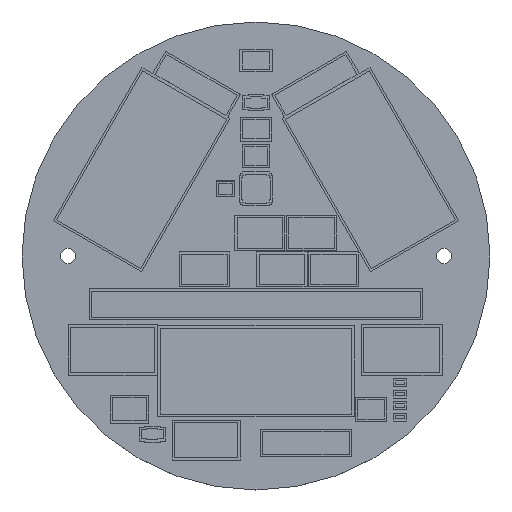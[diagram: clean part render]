
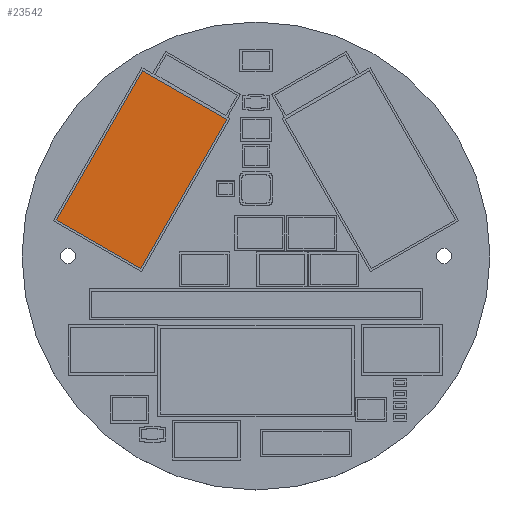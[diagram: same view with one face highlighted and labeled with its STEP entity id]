
A CAD part, top view. The second image highlights one B-rep face of the part: STEP entity #23542.
In plain terms, the highlighted planar face has unit normal (0, 0, 1).
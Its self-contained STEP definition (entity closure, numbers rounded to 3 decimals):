
#14157 = PLANE('',#14158);
#14158 = AXIS2_PLACEMENT_3D('',#14159,#14160,#14161);
#14159 = CARTESIAN_POINT('',(-7.306,36.146,2.6));
#14160 = DIRECTION('',(0.866,-0.5,0.));
#14161 = DIRECTION('',(0.,0.,1.));
#14185 = PLANE('',#14186);
#14186 = AXIS2_PLACEMENT_3D('',#14187,#14188,#14189);
#14187 = CARTESIAN_POINT('',(-29.536,-3.559,2.6));
#14188 = DIRECTION('',(-0.5,-0.866,0.));
#14189 = DIRECTION('',(0.,0.,1.));
#14213 = PLANE('',#14214);
#14214 = AXIS2_PLACEMENT_3D('',#14215,#14216,#14217);
#14215 = CARTESIAN_POINT('',(-52.266,8.872,2.6));
#14216 = DIRECTION('',(-0.866,0.5,0.));
#14217 = DIRECTION('',(0.,0.,1.));
#14239 = PLANE('',#14240);
#14240 = AXIS2_PLACEMENT_3D('',#14241,#14242,#14243);
#14241 = CARTESIAN_POINT('',(-30.036,48.576,2.6));
#14242 = DIRECTION('',(0.5,0.866,0.));
#14243 = DIRECTION('',(0.,0.,1.));
#19907 = VERTEX_POINT('',#19908);
#19908 = CARTESIAN_POINT('',(-7.606,35.626,3.));
#19927 = EDGE_CURVE('',#19928,#19907,#19930,.T.);
#19928 = VERTEX_POINT('',#19929);
#19929 = CARTESIAN_POINT('',(-30.056,-3.259,3.));
#19930 = SURFACE_CURVE('',#19931,(#19935,#19941),.PCURVE_S1.);
#19931 = LINE('',#19932,#19933);
#19932 = CARTESIAN_POINT('',(-14.219,24.173,3.));
#19933 = VECTOR('',#19934,1.);
#19934 = DIRECTION('',(0.5,0.866,-0.));
#19935 = PCURVE('',#14157,#19936);
#19936 = DEFINITIONAL_REPRESENTATION('',(#19937),#19940);
#19937 = B_SPLINE_CURVE_WITH_KNOTS('',1,(#19938,#19939),.UNSPECIFIED.,
  .F.,.F.,(2,2),(-31.675,13.225),
  .PIECEWISE_BEZIER_KNOTS.);
#19938 = CARTESIAN_POINT('',(0.4,45.5));
#19939 = CARTESIAN_POINT('',(0.4,0.6));
#19940 = ( GEOMETRIC_REPRESENTATION_CONTEXT(2) 
PARAMETRIC_REPRESENTATION_CONTEXT() REPRESENTATION_CONTEXT('2D SPACE',''
  ) );
#19941 = PCURVE('',#19942,#19947);
#19942 = PLANE('',#19943);
#19943 = AXIS2_PLACEMENT_3D('',#19944,#19945,#19946);
#19944 = CARTESIAN_POINT('',(0.,0.,3.)
  );
#19945 = DIRECTION('',(0.,0.,1.));
#19946 = DIRECTION('',(1.,0.,-0.));
#19947 = DEFINITIONAL_REPRESENTATION('',(#19948),#19951);
#19948 = B_SPLINE_CURVE_WITH_KNOTS('',1,(#19949,#19950),.UNSPECIFIED.,
  .F.,.F.,(2,2),(-31.675,13.225),
  .PIECEWISE_BEZIER_KNOTS.);
#19949 = CARTESIAN_POINT('',(-30.056,-3.259));
#19950 = CARTESIAN_POINT('',(-7.606,35.626));
#19951 = ( GEOMETRIC_REPRESENTATION_CONTEXT(2) 
PARAMETRIC_REPRESENTATION_CONTEXT() REPRESENTATION_CONTEXT('2D SPACE',''
  ) );
#19977 = EDGE_CURVE('',#19978,#19928,#19980,.T.);
#19978 = VERTEX_POINT('',#19979);
#19979 = CARTESIAN_POINT('',(-51.966,9.391,3.));
#19980 = SURFACE_CURVE('',#19981,(#19985,#19991),.PCURVE_S1.);
#19981 = LINE('',#19982,#19983);
#19982 = CARTESIAN_POINT('',(-19.231,-9.509,3.));
#19983 = VECTOR('',#19984,1.);
#19984 = DIRECTION('',(0.866,-0.5,0.));
#19985 = PCURVE('',#14185,#19986);
#19986 = DEFINITIONAL_REPRESENTATION('',(#19987),#19990);
#19987 = B_SPLINE_CURVE_WITH_KNOTS('',1,(#19988,#19989),.UNSPECIFIED.,
  .F.,.F.,(2,2),(-37.8,-12.5),
  .PIECEWISE_BEZIER_KNOTS.);
#19988 = CARTESIAN_POINT('',(0.4,25.9));
#19989 = CARTESIAN_POINT('',(0.4,0.6));
#19990 = ( GEOMETRIC_REPRESENTATION_CONTEXT(2) 
PARAMETRIC_REPRESENTATION_CONTEXT() REPRESENTATION_CONTEXT('2D SPACE',''
  ) );
#19991 = PCURVE('',#19942,#19992);
#19992 = DEFINITIONAL_REPRESENTATION('',(#19993),#19996);
#19993 = B_SPLINE_CURVE_WITH_KNOTS('',1,(#19994,#19995),.UNSPECIFIED.,
  .F.,.F.,(2,2),(-37.8,-12.5),
  .PIECEWISE_BEZIER_KNOTS.);
#19994 = CARTESIAN_POINT('',(-51.966,9.391));
#19995 = CARTESIAN_POINT('',(-30.056,-3.259));
#19996 = ( GEOMETRIC_REPRESENTATION_CONTEXT(2) 
PARAMETRIC_REPRESENTATION_CONTEXT() REPRESENTATION_CONTEXT('2D SPACE',''
  ) );
#20022 = EDGE_CURVE('',#20023,#19978,#20025,.T.);
#20023 = VERTEX_POINT('',#20024);
#20024 = CARTESIAN_POINT('',(-29.516,48.276,3.));
#20025 = SURFACE_CURVE('',#20026,(#20030,#20036),.PCURVE_S1.);
#20026 = LINE('',#20027,#20028);
#20027 = CARTESIAN_POINT('',(-47.654,16.861,3.));
#20028 = VECTOR('',#20029,1.);
#20029 = DIRECTION('',(-0.5,-0.866,0.));
#20030 = PCURVE('',#14213,#20031);
#20031 = DEFINITIONAL_REPRESENTATION('',(#20032),#20035);
#20032 = B_SPLINE_CURVE_WITH_KNOTS('',1,(#20033,#20034),.UNSPECIFIED.,
  .F.,.F.,(2,2),(-36.275,8.625),
  .PIECEWISE_BEZIER_KNOTS.);
#20033 = CARTESIAN_POINT('',(0.4,45.5));
#20034 = CARTESIAN_POINT('',(0.4,0.6));
#20035 = ( GEOMETRIC_REPRESENTATION_CONTEXT(2) 
PARAMETRIC_REPRESENTATION_CONTEXT() REPRESENTATION_CONTEXT('2D SPACE',''
  ) );
#20036 = PCURVE('',#19942,#20037);
#20037 = DEFINITIONAL_REPRESENTATION('',(#20038),#20041);
#20038 = B_SPLINE_CURVE_WITH_KNOTS('',1,(#20039,#20040),.UNSPECIFIED.,
  .F.,.F.,(2,2),(-36.275,8.625),
  .PIECEWISE_BEZIER_KNOTS.);
#20039 = CARTESIAN_POINT('',(-29.516,48.276));
#20040 = CARTESIAN_POINT('',(-51.966,9.391));
#20041 = ( GEOMETRIC_REPRESENTATION_CONTEXT(2) 
PARAMETRIC_REPRESENTATION_CONTEXT() REPRESENTATION_CONTEXT('2D SPACE',''
  ) );
#20067 = EDGE_CURVE('',#19907,#20023,#20068,.T.);
#20068 = SURFACE_CURVE('',#20069,(#20073,#20079),.PCURVE_S1.);
#20069 = LINE('',#20070,#20071);
#20070 = CARTESIAN_POINT('',(-8.256,36.001,3.));
#20071 = VECTOR('',#20072,1.);
#20072 = DIRECTION('',(-0.866,0.5,0.));
#20073 = PCURVE('',#14239,#20074);
#20074 = DEFINITIONAL_REPRESENTATION('',(#20075),#20078);
#20075 = B_SPLINE_CURVE_WITH_KNOTS('',1,(#20076,#20077),.UNSPECIFIED.,
  .F.,.F.,(2,2),(-0.75,24.55),
  .PIECEWISE_BEZIER_KNOTS.);
#20076 = CARTESIAN_POINT('',(0.4,25.9));
#20077 = CARTESIAN_POINT('',(0.4,0.6));
#20078 = ( GEOMETRIC_REPRESENTATION_CONTEXT(2) 
PARAMETRIC_REPRESENTATION_CONTEXT() REPRESENTATION_CONTEXT('2D SPACE',''
  ) );
#20079 = PCURVE('',#19942,#20080);
#20080 = DEFINITIONAL_REPRESENTATION('',(#20081),#20084);
#20081 = B_SPLINE_CURVE_WITH_KNOTS('',1,(#20082,#20083),.UNSPECIFIED.,
  .F.,.F.,(2,2),(-0.75,24.55),
  .PIECEWISE_BEZIER_KNOTS.);
#20082 = CARTESIAN_POINT('',(-7.606,35.626));
#20083 = CARTESIAN_POINT('',(-29.516,48.276));
#20084 = ( GEOMETRIC_REPRESENTATION_CONTEXT(2) 
PARAMETRIC_REPRESENTATION_CONTEXT() REPRESENTATION_CONTEXT('2D SPACE',''
  ) );
#23542 = ADVANCED_FACE('',(#23543),#19942,.T.);
#23543 = FACE_BOUND('',#23544,.T.);
#23544 = EDGE_LOOP('',(#23545,#23546,#23547,#23548));
#23545 = ORIENTED_EDGE('',*,*,#19927,.T.);
#23546 = ORIENTED_EDGE('',*,*,#20067,.T.);
#23547 = ORIENTED_EDGE('',*,*,#20022,.T.);
#23548 = ORIENTED_EDGE('',*,*,#19977,.T.);
